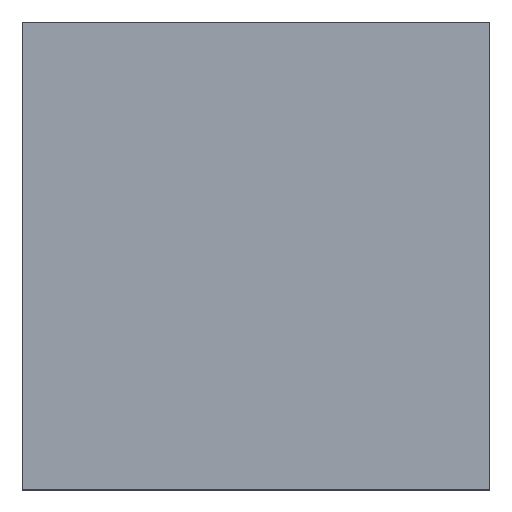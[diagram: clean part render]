
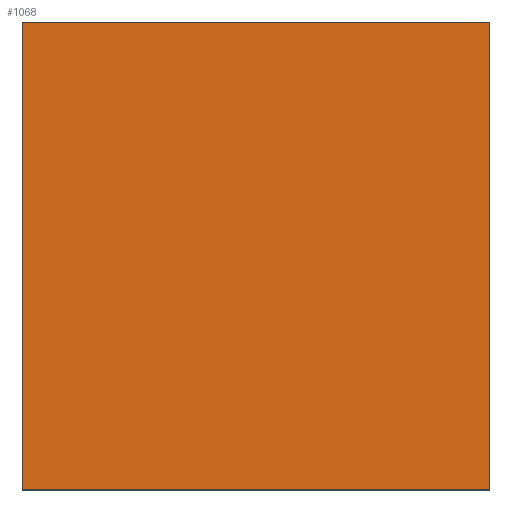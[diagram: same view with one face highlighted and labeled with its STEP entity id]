
A CAD part, top view. The second image highlights one B-rep face of the part: STEP entity #1068.
In plain terms, the highlighted planar face has unit normal (0, 0, 1).
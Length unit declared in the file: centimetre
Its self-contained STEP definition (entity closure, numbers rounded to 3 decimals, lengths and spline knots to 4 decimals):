
#14 = CARTESIAN_POINT ( 'NONE',  ( 1000., 1000., 1000. ) ) ;
#86 = LINE ( 'NONE', #387, #292 ) ;
#98 = CARTESIAN_POINT ( 'NONE',  ( 1000., 1000., 1000. ) ) ;
#108 = DIRECTION ( 'NONE',  ( 1., 0., 0. ) ) ;
#112 = DIRECTION ( 'NONE',  ( 0., 0., 1. ) ) ;
#119 = CARTESIAN_POINT ( 'NONE',  ( 0., 0., 1000. ) ) ;
#240 = ORIENTED_EDGE ( 'NONE', *, *, #1067, .T. ) ;
#251 = LINE ( 'NONE', #119, #485 ) ;
#292 = VECTOR ( 'NONE', #1196, 100. ) ;
#297 = VERTEX_POINT ( 'NONE', #569 ) ;
#298 = EDGE_LOOP ( 'NONE', ( #240, #762, #822, #350 ) ) ;
#316 = VECTOR ( 'NONE', #834, 100. ) ;
#319 = CARTESIAN_POINT ( 'NONE',  ( 0., 1000., 1000. ) ) ;
#350 = ORIENTED_EDGE ( 'NONE', *, *, #683, .T. ) ;
#383 = VERTEX_POINT ( 'NONE', #98 ) ;
#387 = CARTESIAN_POINT ( 'NONE',  ( 0., 1000., 1000. ) ) ;
#394 = LINE ( 'NONE', #319, #316 ) ;
#408 = CARTESIAN_POINT ( 'NONE',  ( 1000., 0., 1000. ) ) ;
#416 = DIRECTION ( 'NONE',  ( 0., 1., 0. ) ) ;
#477 = EDGE_CURVE ( 'NONE', #1327, #383, #519, .T. ) ;
#485 = VECTOR ( 'NONE', #647, 100. ) ;
#519 = LINE ( 'NONE', #14, #729 ) ;
#523 = EDGE_CURVE ( 'NONE', #297, #1327, #251, .T. ) ;
#569 = CARTESIAN_POINT ( 'NONE',  ( 0., 0., 1000. ) ) ;
#627 = PLANE ( 'NONE',  #1324 ) ;
#647 = DIRECTION ( 'NONE',  ( 1., 0., 0. ) ) ;
#683 = EDGE_CURVE ( 'NONE', #383, #1008, #86, .T. ) ;
#729 = VECTOR ( 'NONE', #416, 100. ) ;
#762 = ORIENTED_EDGE ( 'NONE', *, *, #523, .T. ) ;
#822 = ORIENTED_EDGE ( 'NONE', *, *, #477, .T. ) ;
#834 = DIRECTION ( 'NONE',  ( 0., -1., 0. ) ) ;
#928 = FACE_OUTER_BOUND ( 'NONE', #298, .T. ) ;
#1008 = VERTEX_POINT ( 'NONE', #1347 ) ;
#1037 = CARTESIAN_POINT ( 'NONE',  ( 0., 0., 1000. ) ) ;
#1067 = EDGE_CURVE ( 'NONE', #1008, #297, #394, .T. ) ;
#1068 = ADVANCED_FACE ( 'NONE', ( #928 ), #627, .T. ) ;
#1196 = DIRECTION ( 'NONE',  ( -1., 0., 0. ) ) ;
#1324 = AXIS2_PLACEMENT_3D ( 'NONE', #1037, #112, #108 ) ;
#1327 = VERTEX_POINT ( 'NONE', #408 ) ;
#1347 = CARTESIAN_POINT ( 'NONE',  ( 0., 1000., 1000. ) ) ;
